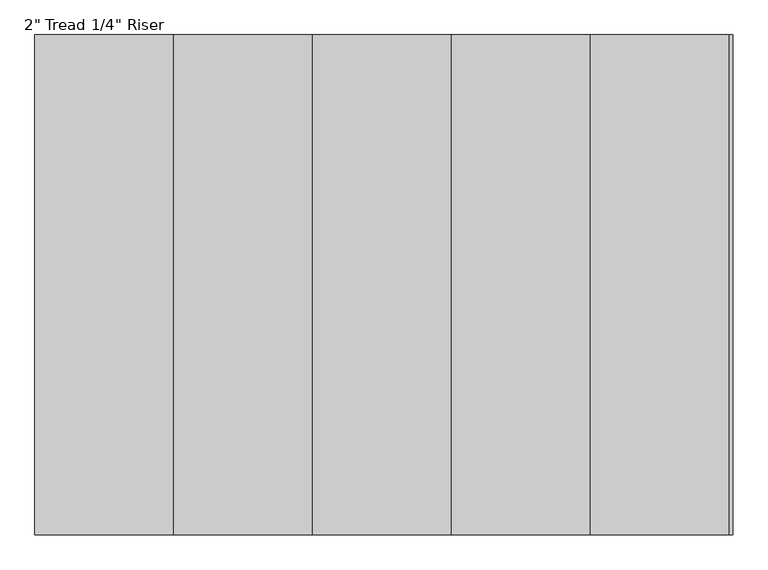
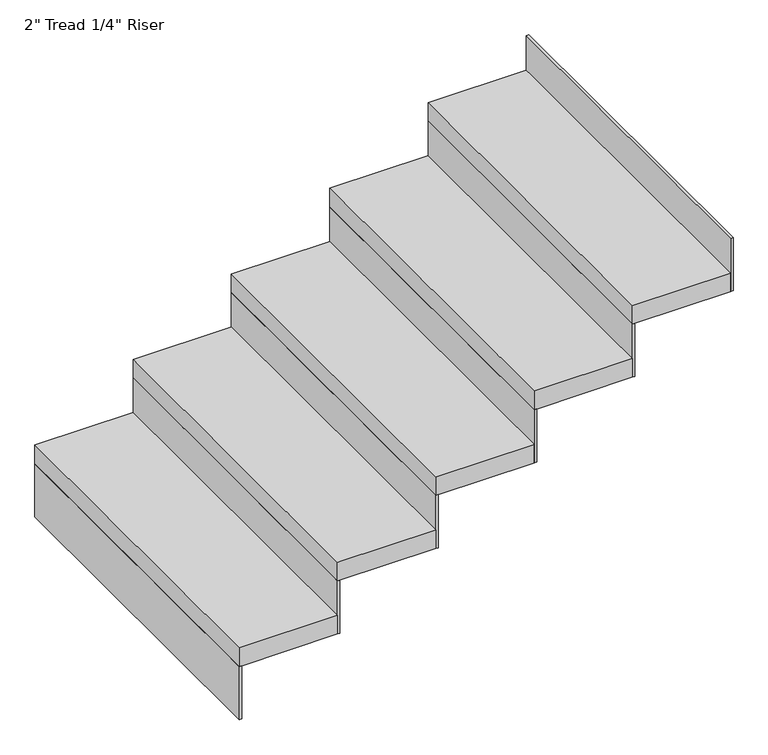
"""IFC4 building model written with IfcOpenShell, lengths in millimetres: stair flight geometry."""

from ifc_helpers import new_model, si_unit, frame, origin, place, context, project, spatial, polyline, outline, extrude, source, transform, mapped, element, save


def stair_flight_b9e693a1(model_context):
    return source(origin(), model_context, "Body", "SweptSolid", [
        extrude(outline(polyline([(51346.1366768, 21385.3361774), (51339.7866768, 21385.3361774), (51339.7866768, 22299.7361774), (51346.1366768, 22299.7361774), (51346.1366768, 21385.3361774)])), frame((0.0, 0.0, 2126.3428571), z_axis=(0.0, 0.0, 1.0), x_axis=(1.0, 0.0, 0.0)), (0.0, 0.0, 1.0), 145.1428571),
        extrude(outline(polyline([(51593.7866768, 22299.7361774), (51593.7866768, 21385.3361774), (51339.7866768, 21385.3361774), (51339.7866768, 22299.7361774), (51593.7866768, 22299.7361774)])), frame((0.0, 0.0, 2271.4857143), z_axis=(0.0, 0.0, 1.0), x_axis=(1.0, 0.0, 0.0)), (0.0, 0.0, 1.0), 50.8),
        extrude(outline(polyline([(51600.1366768, 21385.3361774), (51593.7866768, 21385.3361774), (51593.7866768, 22299.7361774), (51600.1366768, 22299.7361774), (51600.1366768, 21385.3361774)])), frame((0.0, 0.0, 2271.4857143), z_axis=(0.0, 0.0, 1.0), x_axis=(1.0, 0.0, 0.0)), (0.0, 0.0, 1.0), 145.1428571),
        extrude(outline(polyline([(51847.7866768, 22299.7361774), (51847.7866768, 21385.3361774), (51593.7866768, 21385.3361774), (51593.7866768, 22299.7361774), (51847.7866768, 22299.7361774)])), frame((0.0, 0.0, 2416.6285714), z_axis=(0.0, 0.0, 1.0), x_axis=(1.0, 0.0, 0.0)), (0.0, 0.0, 1.0), 50.8),
        extrude(outline(polyline([(51854.1366768, 21385.3361774), (51847.7866768, 21385.3361774), (51847.7866768, 22299.7361774), (51854.1366768, 22299.7361774), (51854.1366768, 21385.3361774)])), frame((0.0, 0.0, 2416.6285714), z_axis=(0.0, 0.0, 1.0), x_axis=(1.0, 0.0, 0.0)), (0.0, 0.0, 1.0), 145.1428571),
        extrude(outline(polyline([(52101.7866768, 22299.7361774), (52101.7866768, 21385.3361774), (51847.7866768, 21385.3361774), (51847.7866768, 22299.7361774), (52101.7866768, 22299.7361774)])), frame((0.0, 0.0, 2561.7714286), z_axis=(0.0, 0.0, 1.0), x_axis=(1.0, 0.0, 0.0)), (0.0, 0.0, 1.0), 50.8),
        extrude(outline(polyline([(52108.1366768, 21385.3361774), (52101.7866768, 21385.3361774), (52101.7866768, 22299.7361774), (52108.1366768, 22299.7361774), (52108.1366768, 21385.3361774)])), frame((0.0, 0.0, 2561.7714286), z_axis=(0.0, 0.0, 1.0), x_axis=(1.0, 0.0, 0.0)), (0.0, 0.0, 1.0), 145.1428571),
        extrude(outline(polyline([(52355.7866768, 22299.7361774), (52355.7866768, 21385.3361774), (52101.7866768, 21385.3361774), (52101.7866768, 22299.7361774), (52355.7866768, 22299.7361774)])), frame((0.0, 0.0, 2706.9142857), z_axis=(0.0, 0.0, 1.0), x_axis=(1.0, 0.0, 0.0)), (0.0, 0.0, 1.0), 50.8),
        extrude(outline(polyline([(52362.1366768, 21385.3361774), (52355.7866768, 21385.3361774), (52355.7866768, 22299.7361774), (52362.1366768, 22299.7361774), (52362.1366768, 21385.3361774)])), frame((0.0, 0.0, 2706.9142857), z_axis=(0.0, 0.0, 1.0), x_axis=(1.0, 0.0, 0.0)), (0.0, 0.0, 1.0), 145.1428571),
        extrude(outline(polyline([(52616.1366768, 21385.3361774), (52609.7866768, 21385.3361774), (52609.7866768, 22299.7361774), (52616.1366768, 22299.7361774), (52616.1366768, 21385.3361774)])), frame((0.0, 0.0, 2852.0571429), z_axis=(0.0, 0.0, 1.0), x_axis=(1.0, 0.0, 0.0)), (0.0, 0.0, 1.0), 145.1428571),
        extrude(outline(polyline([(52609.7866768, 22299.7361774), (52609.7866768, 21385.3361774), (52355.7866768, 21385.3361774), (52355.7866768, 22299.7361774), (52609.7866768, 22299.7361774)])), frame((0.0, 0.0, 2852.0571429), z_axis=(0.0, 0.0, 1.0), x_axis=(1.0, 0.0, 0.0)), (0.0, 0.0, 1.0), 50.8),
    ])


if __name__ == "__main__":
    model = new_model("IFC4")
    model_context = context("Model", 3, world=origin())
    ifc_project = project(units=[si_unit("LENGTHUNIT", "METRE", prefix="MILLI")], contexts=[model_context])
    site = spatial("IfcSite", under=ifc_project)
    building = spatial("IfcBuilding", under=site)
    placement = place(None, origin())
    stair_flight_shape = stair_flight_b9e693a1(model_context)
    element("IfcStairFlight", 1, ObjectType="2\" Tread 1/4\" Riser", at=placement, inside=building, context=model_context, shape_type="MappedRepresentation", body=[
        mapped(stair_flight_shape, transform((0.0, 0.0, 0.0), x_axis=(1.0, 0.0, 0.0), y_axis=(0.0, 1.0, 0.0), z_axis=(0.0, 0.0, 1.0))),
    ])
    save(model, "model.ifc")
